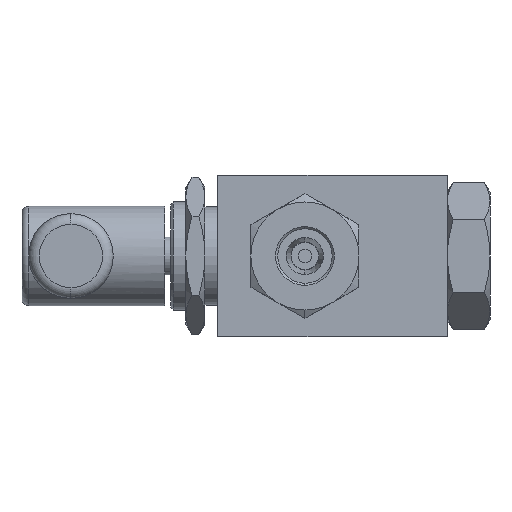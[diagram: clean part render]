
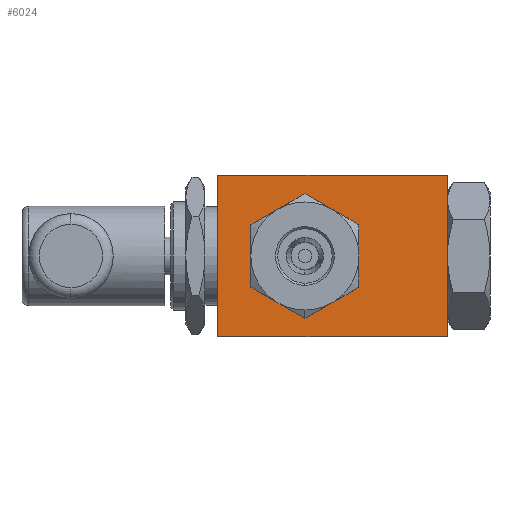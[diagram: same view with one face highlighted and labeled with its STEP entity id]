
A CAD part, left-side view. The second image highlights one B-rep face of the part: STEP entity #6024.
In plain terms, the highlighted planar face has unit normal (-1, 0, 0).
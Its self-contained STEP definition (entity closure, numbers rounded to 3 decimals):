
#46 = PLANE ( 'NONE',  #270 ) ;
#88 = VERTEX_POINT ( 'NONE', #5737 ) ;
#101 = CARTESIAN_POINT ( 'NONE',  ( -33.25, -27., 19. ) ) ;
#192 = AXIS2_PLACEMENT_3D ( 'NONE', #5107, #5576, #6062 ) ;
#232 = CARTESIAN_POINT ( 'NONE',  ( -33.25, 6.5, 0. ) ) ;
#270 = AXIS2_PLACEMENT_3D ( 'NONE', #5617, #585, #4096 ) ;
#273 = EDGE_LOOP ( 'NONE', ( #6389, #3797, #3428, #3727 ) ) ;
#328 = DIRECTION ( 'NONE',  ( 1., 0., 0. ) ) ;
#432 = CARTESIAN_POINT ( 'NONE',  ( -33.25, 6.5, 0. ) ) ;
#440 = CARTESIAN_POINT ( 'NONE',  ( -33.25, -27., 19. ) ) ;
#539 = EDGE_LOOP ( 'NONE', ( #3760, #1547, #1532, #1945, #3067, #3611, #3029 ) ) ;
#585 = DIRECTION ( 'NONE',  ( 1., 0., 0. ) ) ;
#664 = EDGE_CURVE ( 'NONE', #740, #6069, #4994, .T. ) ;
#693 = VERTEX_POINT ( 'NONE', #4338 ) ;
#706 = LINE ( 'NONE', #2185, #2015 ) ;
#732 = DIRECTION ( 'NONE',  ( 0., 0., -1. ) ) ;
#740 = VERTEX_POINT ( 'NONE', #2949 ) ;
#869 = CARTESIAN_POINT ( 'NONE',  ( -33.25, -27., 19. ) ) ;
#946 = CARTESIAN_POINT ( 'NONE',  ( -33.25, 6.5, 0. ) ) ;
#1091 = EDGE_CURVE ( 'NONE', #693, #740, #2179, .T. ) ;
#1160 = EDGE_CURVE ( 'NONE', #5271, #88, #4411, .T. ) ;
#1175 = CARTESIAN_POINT ( 'NONE',  ( -33.25, 27., 19. ) ) ;
#1316 = AXIS2_PLACEMENT_3D ( 'NONE', #432, #3899, #3416 ) ;
#1529 = VERTEX_POINT ( 'NONE', #5980 ) ;
#1532 = ORIENTED_EDGE ( 'NONE', *, *, #3167, .T. ) ;
#1547 = ORIENTED_EDGE ( 'NONE', *, *, #2270, .T. ) ;
#1636 = CARTESIAN_POINT ( 'NONE',  ( -33.25, 27., -19. ) ) ;
#1753 = VECTOR ( 'NONE', #6258, 1000. ) ;
#1769 = AXIS2_PLACEMENT_3D ( 'NONE', #4974, #6440, #3361 ) ;
#1812 = VERTEX_POINT ( 'NONE', #1636 ) ;
#1945 = ORIENTED_EDGE ( 'NONE', *, *, #1091, .T. ) ;
#1954 = VERTEX_POINT ( 'NONE', #4630 ) ;
#2015 = VECTOR ( 'NONE', #732, 1000. ) ;
#2179 = CIRCLE ( 'NONE', #1316, 11. ) ;
#2185 = CARTESIAN_POINT ( 'NONE',  ( -33.25, 27., 19. ) ) ;
#2188 = AXIS2_PLACEMENT_3D ( 'NONE', #2255, #4269, #3781 ) ;
#2255 = CARTESIAN_POINT ( 'NONE',  ( -33.25, 6.5, 0. ) ) ;
#2270 = EDGE_CURVE ( 'NONE', #1529, #3465, #4317, .T. ) ;
#2355 = DIRECTION ( 'NONE',  ( 0., 0., -1. ) ) ;
#2705 = AXIS2_PLACEMENT_3D ( 'NONE', #946, #3962, #2964 ) ;
#2949 = CARTESIAN_POINT ( 'NONE',  ( -33.25, 6.5, 11. ) ) ;
#2964 = DIRECTION ( 'NONE',  ( 0., 0., -1. ) ) ;
#3029 = ORIENTED_EDGE ( 'NONE', *, *, #4962, .T. ) ;
#3039 = LINE ( 'NONE', #440, #3142 ) ;
#3067 = ORIENTED_EDGE ( 'NONE', *, *, #664, .T. ) ;
#3142 = VECTOR ( 'NONE', #5551, 1000. ) ;
#3167 = EDGE_CURVE ( 'NONE', #3465, #693, #4711, .T. ) ;
#3232 = CIRCLE ( 'NONE', #4907, 11. ) ;
#3361 = DIRECTION ( 'NONE',  ( 0., 0., -1. ) ) ;
#3416 = DIRECTION ( 'NONE',  ( 0., 0., -1. ) ) ;
#3428 = ORIENTED_EDGE ( 'NONE', *, *, #6019, .F. ) ;
#3465 = VERTEX_POINT ( 'NONE', #6285 ) ;
#3479 = EDGE_CURVE ( 'NONE', #4580, #1812, #706, .T. ) ;
#3611 = ORIENTED_EDGE ( 'NONE', *, *, #5091, .T. ) ;
#3727 = ORIENTED_EDGE ( 'NONE', *, *, #3479, .T. ) ;
#3760 = ORIENTED_EDGE ( 'NONE', *, *, #6218, .T. ) ;
#3781 = DIRECTION ( 'NONE',  ( 0., 0., -1. ) ) ;
#3797 = ORIENTED_EDGE ( 'NONE', *, *, #1160, .F. ) ;
#3878 = VECTOR ( 'NONE', #5507, 1000. ) ;
#3899 = DIRECTION ( 'NONE',  ( 1., 0., 0. ) ) ;
#3962 = DIRECTION ( 'NONE',  ( 1., 0., 0. ) ) ;
#4026 = CARTESIAN_POINT ( 'NONE',  ( -33.25, 1., 9.526 ) ) ;
#4096 = DIRECTION ( 'NONE',  ( 0., 0., -1. ) ) ;
#4240 = CARTESIAN_POINT ( 'NONE',  ( -33.25, 6.5, 0. ) ) ;
#4269 = DIRECTION ( 'NONE',  ( 1., 0., 0. ) ) ;
#4317 = CIRCLE ( 'NONE', #1769, 11. ) ;
#4338 = CARTESIAN_POINT ( 'NONE',  ( -33.25, 12., 9.526 ) ) ;
#4399 = CARTESIAN_POINT ( 'NONE',  ( -33.25, 1., -9.526 ) ) ;
#4411 = LINE ( 'NONE', #869, #3878 ) ;
#4478 = FACE_BOUND ( 'NONE', #539, .T. ) ;
#4580 = VERTEX_POINT ( 'NONE', #1175 ) ;
#4630 = CARTESIAN_POINT ( 'NONE',  ( -33.25, -4.5, 0. ) ) ;
#4634 = CIRCLE ( 'NONE', #192, 11. ) ;
#4711 = CIRCLE ( 'NONE', #2705, 11. ) ;
#4907 = AXIS2_PLACEMENT_3D ( 'NONE', #4240, #6262, #5788 ) ;
#4962 = EDGE_CURVE ( 'NONE', #1954, #5203, #4634, .T. ) ;
#4974 = CARTESIAN_POINT ( 'NONE',  ( -33.25, 6.5, 0. ) ) ;
#4994 = CIRCLE ( 'NONE', #6161, 11. ) ;
#5091 = EDGE_CURVE ( 'NONE', #6069, #1954, #3232, .T. ) ;
#5107 = CARTESIAN_POINT ( 'NONE',  ( -33.25, 6.5, 0. ) ) ;
#5203 = VERTEX_POINT ( 'NONE', #4399 ) ;
#5271 = VERTEX_POINT ( 'NONE', #101 ) ;
#5507 = DIRECTION ( 'NONE',  ( 0., 0., -1. ) ) ;
#5551 = DIRECTION ( 'NONE',  ( 0., -1., 0. ) ) ;
#5576 = DIRECTION ( 'NONE',  ( 1., 0., 0. ) ) ;
#5617 = CARTESIAN_POINT ( 'NONE',  ( -33.25, -27., 19. ) ) ;
#5737 = CARTESIAN_POINT ( 'NONE',  ( -33.25, -27., -19. ) ) ;
#5788 = DIRECTION ( 'NONE',  ( 0., 0., -1. ) ) ;
#5980 = CARTESIAN_POINT ( 'NONE',  ( -33.25, 12., -9.526 ) ) ;
#6019 = EDGE_CURVE ( 'NONE', #4580, #5271, #3039, .T. ) ;
#6024 = ADVANCED_FACE ( 'NONE', ( #6549, #4478 ), #46, .F. ) ;
#6062 = DIRECTION ( 'NONE',  ( 0., 0., -1. ) ) ;
#6069 = VERTEX_POINT ( 'NONE', #4026 ) ;
#6161 = AXIS2_PLACEMENT_3D ( 'NONE', #232, #328, #2355 ) ;
#6218 = EDGE_CURVE ( 'NONE', #5203, #1529, #6527, .T. ) ;
#6258 = DIRECTION ( 'NONE',  ( 0., -1., 0. ) ) ;
#6262 = DIRECTION ( 'NONE',  ( 1., 0., 0. ) ) ;
#6285 = CARTESIAN_POINT ( 'NONE',  ( -33.25, 17.5, 0. ) ) ;
#6287 = LINE ( 'NONE', #6321, #1753 ) ;
#6321 = CARTESIAN_POINT ( 'NONE',  ( -33.25, -27., -19. ) ) ;
#6389 = ORIENTED_EDGE ( 'NONE', *, *, #6547, .T. ) ;
#6440 = DIRECTION ( 'NONE',  ( 1., 0., 0. ) ) ;
#6527 = CIRCLE ( 'NONE', #2188, 11. ) ;
#6547 = EDGE_CURVE ( 'NONE', #1812, #88, #6287, .T. ) ;
#6549 = FACE_OUTER_BOUND ( 'NONE', #273, .T. ) ;
